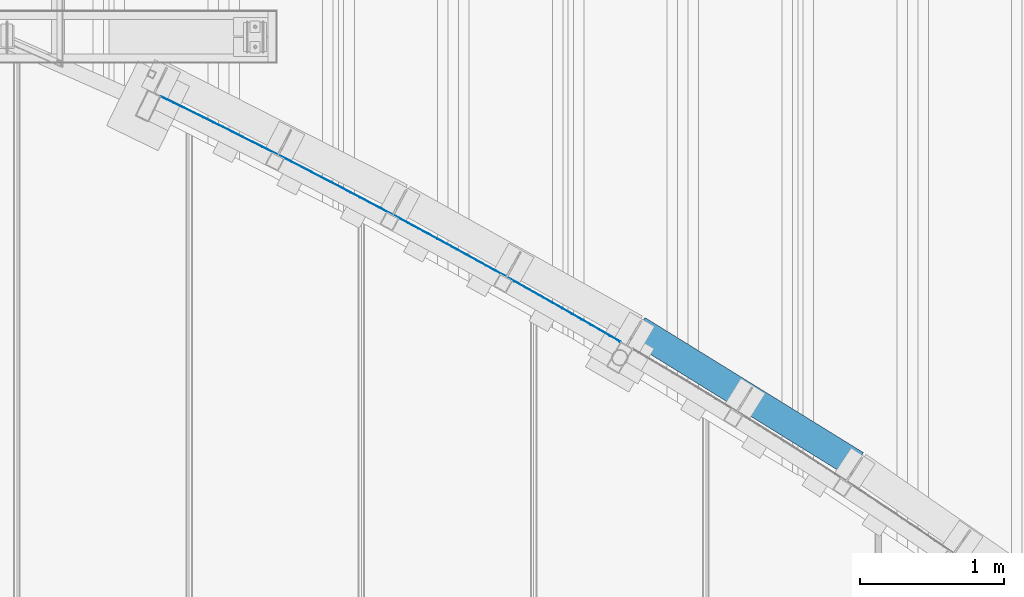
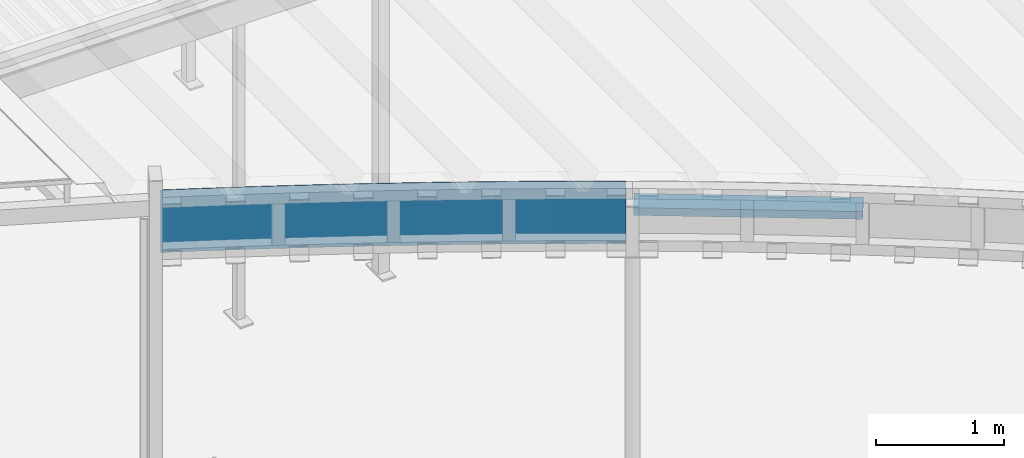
# One storey, part 17 of 98: 2 beams.
"""IFC2X3 building model written with IfcOpenShell, lengths in millimetres."""

from ifc_helpers import new_model, entity, si_unit, converted_unit, derived_unit, direction, frame, origin_with_axes, place, context, subcontext, project, spatial, faceted_brep, material, type_object, element, save


model = new_model("IFC2X3")

# Units and contexts
model_context = context("Model", 3, precision=0.01, world=frame((0.0, 4.29681676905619e-09, 0.0)), true_north=direction((4.01073788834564e-13, 1.0)))
plan_context = context("Plan", 3, precision=0.01, world=frame((0.0, 4.29681676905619e-09, 0.0)), true_north=direction((4.01073788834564e-13, 1.0)))
body_context = subcontext(model_context, "Body", "Model", "MODEL_VIEW")
ifc_project = project(units=[converted_unit("PLANEANGLEUNIT", "DEGREE", entity("IfcPositiveLengthMeasure", 0.0174532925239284), si_unit("PLANEANGLEUNIT", "RADIAN"), dimensions=[0, 0, 0, 0, 0, 0, 0]), si_unit("AREAUNIT", "SQUARE_METRE"), si_unit("LENGTHUNIT", "METRE", prefix="MILLI"), si_unit("MASSUNIT", "GRAM", prefix="KILO"), si_unit("POWERUNIT", "WATT"), si_unit("PRESSUREUNIT", "PASCAL"), si_unit("FORCEUNIT", "NEWTON", prefix="KILO"), si_unit("ELECTRICCURRENTUNIT", "AMPERE"), si_unit("THERMODYNAMICTEMPERATUREUNIT", "DEGREE_CELSIUS"), si_unit("TIMEUNIT", "SECOND"), si_unit("VOLUMEUNIT", "CUBIC_METRE"), derived_unit("LINEARVELOCITYUNIT", [(si_unit("LENGTHUNIT", "METRE"), 1), (si_unit("TIMEUNIT", "SECOND"), -1)]), derived_unit("VOLUMETRICFLOWRATEUNIT", [(si_unit("VOLUMEUNIT", "CUBIC_METRE"), 1), (si_unit("TIMEUNIT", "SECOND"), -1)]), derived_unit("THERMALTRANSMITTANCEUNIT", [(si_unit("POWERUNIT", "WATT"), 1), (si_unit("THERMODYNAMICTEMPERATUREUNIT", "KELVIN"), -1), (si_unit("AREAUNIT", "SQUARE_METRE"), -1)])], contexts=[model_context, plan_context])

# Site, building, storey
site_placement = place(None, frame((0.0, -4.29681676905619e-09, 0.0), z_axis=(0.0, 0.0, 1.0), x_axis=(1.0, 0.0, 0.0)))
site = spatial("IfcSite", under=ifc_project, at=site_placement, Name="Gardermoen", CompositionType="ELEMENT")
building_placement = place(site_placement, frame((0.0, 4.29681676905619e-09, 0.0), z_axis=(0.0, 0.0, 1.0), x_axis=(1.0, 0.0, 0.0)))
building = spatial("IfcBuilding", under=site, at=building_placement, Name="TS", CompositionType="ELEMENT")
storey_placement = place(building_placement, origin_with_axes())
storey = spatial("IfcBuildingStorey", under=building, at=storey_placement, Name="D", CompositionType="ELEMENT", Elevation=0.0)

# Beams
ifc_material_1 = material(Name="TIMBER/GL36c")
beam_type_1 = type_object("IfcBeamType", Name="PL73*198", PredefinedType="NOTDEFINED")
beam_1_placement = place(storey_placement, frame((521645.767996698, 409829.850770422, 206786.5), z_axis=(-0.525707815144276, -0.85066520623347, 0.0), x_axis=(-0.85066520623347, 0.525707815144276, 0.0)))
element("IfcBeam", 1, at=beam_1_placement, inside=storey, type_object=beam_type_1, material=ifc_material_1, Name="TREBJELKE", ObjectType="PL73*198", context=body_context, shape_type="Brep", body=[
    faceted_brep([(2.3283064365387e-10, 36.5, -99.0000000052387), (-2.3283064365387e-10, 36.5, 99.0000000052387), (1789.56238802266, 36.5, 98.99999998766), (1789.56238802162, 36.5, -99.0000000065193), (-2.3283064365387e-10, -36.5, 99.0000000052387), (1789.56238802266, -36.5, 98.99999998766), (2.3283064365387e-10, -36.5, -99.0000000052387), (1789.56238802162, -36.5, -99.0000000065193)], [[[0, 1, 2, 3]], [[1, 4, 5, 2]], [[4, 6, 7, 5]], [[6, 0, 3, 7]], [[5, 7, 3, 2]], [[6, 4, 1, 0]]]),
])
ifc_material_2 = material(Name="STEEL/S355")
beam_type_2 = type_object("IfcBeamType", Name="4*595", PredefinedType="NOTDEFINED")
beam_2_placement = place(storey_placement, frame((516756.804473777, 412417.84460096, 206802.5), z_axis=(0.471810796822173, 0.881699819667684, 0.0), x_axis=(0.881699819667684, -0.471810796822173, 0.0)))
element("IfcBeam", 2, at=beam_2_placement, inside=storey, type_object=beam_type_2, material=ifc_material_2, Name="STÅLBJELKE", ObjectType="4*595", context=body_context, shape_type="Brep", body=[
    faceted_brep([(76.5680847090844, 297.499999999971, 0.962838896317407), (76.5680847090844, -297.500000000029, 0.962838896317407), (50.1015547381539, -297.500000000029, -0.0618139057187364), (50.1015547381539, 297.499999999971, -0.0618139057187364), (76.4164969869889, 297.499999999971, 4.95996550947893), (49.9445919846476, 297.499999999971, 3.93510461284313), (76.4164969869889, -297.500000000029, 4.95996550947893), (49.9445919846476, -297.500000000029, 3.93510461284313), (153.061800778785, -297.500000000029, 3.80330701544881), (152.916526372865, -297.500000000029, 7.80066806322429), (152.916526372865, 297.499999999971, 7.80066806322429), (153.061800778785, 297.499999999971, 3.80330701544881), (229.559907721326, 297.499999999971, 6.52295616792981), (229.559907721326, -297.500000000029, 6.52295616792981), (229.420946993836, -297.500000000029, 10.5205416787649), (229.420946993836, 297.499999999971, 10.5205416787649), (305.929568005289, 297.499999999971, 13.1195795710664), (306.062214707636, 297.499999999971, 9.1217795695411), (306.062214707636, -297.500000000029, 9.1217795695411), (305.929568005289, -297.500000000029, 13.1195795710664), (382.442198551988, -297.500000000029, 15.5977752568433), (382.442198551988, 297.499999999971, 15.5977752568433), (382.568530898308, 297.499999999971, 11.5997707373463), (382.568530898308, -297.500000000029, 11.5997707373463), (459.078665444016, -297.500000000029, 13.9569234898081), (458.958647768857, -297.500000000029, 17.9551225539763), (458.958647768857, 297.499999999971, 17.9551225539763), (459.078665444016, 297.499999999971, 13.9569234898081), (535.592427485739, 297.499999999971, 16.1932319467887), (535.592427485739, -297.500000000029, 16.1932319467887), (535.478724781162, -297.500000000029, 20.1916155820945), (535.478724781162, 297.499999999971, 20.1916155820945), (612.00223870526, 297.499999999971, 22.3072487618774), (612.109626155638, 297.499999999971, 18.3086905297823), (612.109626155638, -297.500000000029, 18.3086905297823), (612.00223870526, -297.500000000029, 22.3072487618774), (688.52899864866, -297.500000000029, 24.3020168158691), (688.52899864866, 297.499999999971, 24.3020168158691), (688.630070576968, 297.499999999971, 20.3032939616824), (688.630070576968, -297.500000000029, 20.3032939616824), (765.153569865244, -297.500000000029, 22.177037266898), (765.058813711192, -297.500000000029, 26.175914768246), (765.058813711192, 297.499999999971, 26.175914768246), (765.153569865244, 297.499999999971, 22.177037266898), (841.679933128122, 297.499999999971, 23.9299157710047), (841.679933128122, -297.500000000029, 23.9299157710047), (841.591492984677, -297.500000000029, 27.9289379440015), (841.591492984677, 297.499999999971, 27.9289379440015), (918.126845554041, 297.499999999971, 29.5610819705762), (918.208969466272, 297.499999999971, 25.561925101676), (918.208969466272, -297.500000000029, 25.561925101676), (918.126845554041, -297.500000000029, 29.5610819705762), (994.664680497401, -297.500000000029, 31.0723427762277), (994.664680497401, 297.499999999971, 31.0723427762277), (994.740487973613, 297.499999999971, 27.0730611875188), (994.740487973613, -297.500000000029, 27.0730611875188), (1071.27429773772, -297.500000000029, 28.4633202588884), (1071.20480688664, -297.500000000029, 32.4627165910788), (1071.20480688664, 297.499999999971, 32.4627165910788), (1071.27429773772, 297.499999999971, 28.4633202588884), (1147.8102078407, 297.499999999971, 29.7326988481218), (1147.8102078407, -297.500000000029, 29.7326988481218), (1147.74703378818, -297.500000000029, 33.7321999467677), (1147.74703378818, 297.499999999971, 33.7321999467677), (1224.29117026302, 297.499999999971, 34.8807896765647), (1224.3480273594, 297.499999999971, 30.8811937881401), (1224.3480273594, -297.500000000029, 30.8811937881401), (1224.29117026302, -297.500000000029, 34.8807896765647), (1300.83702536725, -297.500000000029, 35.9084829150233), (1300.83702536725, 297.499999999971, 35.9084829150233), (1300.8875653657, 297.499999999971, 31.9088022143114), (1300.8875653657, -297.500000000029, 31.9088022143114), (1377.4286309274, -297.500000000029, 32.8155215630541), (1377.38440815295, -297.500000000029, 36.8152770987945), (1377.38440815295, 297.499999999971, 36.8152770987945), (1377.4286309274, 297.499999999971, 32.8155215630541), (1453.97103310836, 297.499999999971, 33.6013495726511), (1453.97103310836, -297.500000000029, 33.6013495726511), (1453.93312766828, -297.500000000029, 37.6011699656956), (1453.93312766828, 297.499999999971, 37.6011699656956), (1530.48299295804, 297.499999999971, 38.2661595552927), (1530.51458096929, 297.499999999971, 34.2662842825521), (1530.51458096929, -297.500000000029, 34.2662842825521), (1530.48299295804, -297.500000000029, 38.2661595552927), (1607.03381306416, -297.500000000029, 38.810244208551), (1607.03381306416, 297.499999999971, 38.810244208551), (1607.05908356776, 297.499999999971, 34.8103240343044), (1607.05908356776, -297.500000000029, 34.8103240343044), (1683.60434995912, -297.500000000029, 35.2334674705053), (1683.58539702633, -297.500000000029, 39.2334225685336), (1683.58539702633, 297.499999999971, 39.2334225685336), (1683.60434995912, 297.499999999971, 35.2334674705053), (1760.15018919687, 297.499999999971, 35.5357135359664), (1760.15018919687, -297.500000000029, 35.5357135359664), (1760.13755388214, -297.500000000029, 39.5356935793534), (1760.13755388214, 297.499999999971, 39.5356935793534), (1836.69009266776, 297.499999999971, 39.7170564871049), (1836.69641033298, 297.499999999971, 35.7170614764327), (1836.69641033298, -297.500000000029, 35.7170614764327), (1836.69009266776, -297.500000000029, 39.7170564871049), (1913.24282241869, -297.500000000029, 39.777510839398), (1913.24282241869, 297.499999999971, 39.777510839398), (1913.24282241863, 297.499999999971, 35.7775108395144), (1913.24282241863, -297.500000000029, 35.7775108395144), (1989.78923450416, -297.500000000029, 35.7170614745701), (1989.7955521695, -297.500000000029, 39.7170564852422), (1989.7955521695, 297.499999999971, 39.7170564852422), (1989.78923450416, 297.499999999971, 35.7170614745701), (2066.33545564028, 297.499999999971, 35.5357135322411), (2066.33545564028, -297.500000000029, 35.5357135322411), (2066.34809095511, -297.500000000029, 39.5356935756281), (2066.34809095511, 297.499999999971, 39.5356935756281), (2142.90024781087, 297.499999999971, 39.2334225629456), (2142.88129487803, 297.499999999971, 35.2334674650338), (2142.88129487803, -297.500000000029, 35.2334674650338), (2142.90024781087, -297.500000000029, 39.2334225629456), (2219.45183177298, -297.500000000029, 38.8102442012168), (2219.45183177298, 297.499999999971, 38.8102442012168), (2219.42656126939, 297.499999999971, 34.8103240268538), (2219.42656126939, -297.500000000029, 34.8103240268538), (2295.97106386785, -297.500000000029, 34.2662842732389), (2296.00265187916, -297.500000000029, 38.2661595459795), (2296.00265187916, 297.499999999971, 38.2661595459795), (2295.97106386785, 297.499999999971, 34.2662842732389), (2372.51461172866, 297.499999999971, 33.6013495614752), (2372.51461172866, -297.500000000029, 33.6013495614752), (2372.55251716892, -297.500000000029, 37.6011699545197), (2372.55251716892, 297.499999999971, 37.6011699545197), (2449.10123668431, 297.499999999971, 36.815277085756), (2449.05701390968, 297.499999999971, 32.815521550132), (2449.05701390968, -297.500000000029, 32.815521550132), (2449.10123668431, -297.500000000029, 36.815277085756), (2525.6486194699, -297.500000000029, 35.9084829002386), (2525.6486194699, 297.499999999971, 35.9084829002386), (2525.59807947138, 297.499999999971, 31.9088021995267), (2525.59807947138, -297.500000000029, 31.9088021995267), (2602.13761747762, -297.500000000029, 30.8811937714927), (2602.19447457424, -297.500000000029, 34.8807896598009), (2602.19447457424, 297.499999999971, 34.8807896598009), (2602.13761747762, 297.499999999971, 30.8811937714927), (2678.67543699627, 297.499999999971, 29.7326988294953), (2678.67543699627, -297.500000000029, 29.7326988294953), (2678.73861104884, -297.500000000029, 33.7321999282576), (2678.73861104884, 297.499999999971, 33.7321999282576), (2755.28083795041, 297.499999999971, 32.4627165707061), (2755.21134709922, 297.499999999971, 28.4633202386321), (2755.21134709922, -297.500000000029, 28.4633202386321), (2755.28083795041, -297.500000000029, 32.4627165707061), (2831.82096433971, -297.500000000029, 31.0723427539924), (2831.82096433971, 297.499999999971, 31.0723427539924), (2831.74515686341, 297.499999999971, 27.0730611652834), (2831.74515686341, -297.500000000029, 27.0730611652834), (2908.27667537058, -297.500000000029, 25.5619250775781), (2908.35879928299, -297.500000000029, 29.5610819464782), (2908.35879928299, 297.499999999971, 29.5610819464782), (2908.27667537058, 297.499999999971, 25.5619250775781), (2984.80571170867, 297.499999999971, 23.9299157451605), (2984.80571170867, -297.500000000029, 23.9299157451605), (2984.89415185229, -297.500000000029, 27.9289379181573), (2984.89415185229, 297.499999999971, 27.9289379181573), (3061.42683112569, 297.499999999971, 26.1759147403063), (3061.33207497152, 297.499999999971, 22.1770372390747), (3061.33207497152, -297.500000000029, 22.1770372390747), (3061.42683112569, -297.500000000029, 26.1759147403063), (3137.95664618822, -297.500000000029, 24.3020167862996), (3137.95664618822, 297.499999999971, 24.3020167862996), (3137.85557425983, 297.499999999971, 20.3032939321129), (3137.85557425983, -297.500000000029, 20.3032939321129), (3214.37601868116, -297.500000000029, 18.3086904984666), (3214.48340613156, -297.500000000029, 22.3072487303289), (3214.48340613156, 297.499999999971, 22.3072487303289), (3214.37601868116, 297.499999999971, 18.3086904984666), (3290.89321735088, 297.499999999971, 16.1932319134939), (3290.89321735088, -297.500000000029, 16.1932319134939), (3291.0069200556, -297.500000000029, 20.1916155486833), (3291.0069200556, 297.499999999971, 20.1916155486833), (3367.52699706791, 297.499999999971, 17.9551225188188), (3367.40697939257, 297.499999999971, 13.9569234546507), (3367.40697939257, -297.500000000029, 13.9569234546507), (3367.52699706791, -297.500000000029, 17.9551225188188), (3444.04344628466, -297.500000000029, 15.5977752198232), (3444.04344628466, 297.499999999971, 15.5977752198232), (3443.91711393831, 297.499999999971, 11.5997707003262), (3443.91711393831, -297.500000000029, 11.5997707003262), (3520.4234301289, -297.500000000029, 9.1217795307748), (3520.55607683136, -297.500000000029, 13.1195795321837), (3520.55607683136, 297.499999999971, 13.1195795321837), (3520.4234301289, 297.499999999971, 9.1217795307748), (3596.92573711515, 297.499999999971, 6.52295612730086), (3596.92573711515, -297.500000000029, 6.52295612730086), (3597.0646978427, -297.500000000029, 10.5205416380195), (3597.0646978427, 297.499999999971, 10.5205416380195), (3673.56911846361, 297.499999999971, 7.80066802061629), (3673.42384405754, 297.499999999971, 3.80330697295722), (3673.42384405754, -297.500000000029, 3.80330697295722), (3673.56911846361, -297.500000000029, 7.80066802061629), (3682.44537696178, -297.500000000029, 7.47106278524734), (3682.44537696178, 297.499999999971, 7.47106278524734), (3682.29725316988, 297.499999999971, 3.47380754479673), (3682.29725316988, -297.500000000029, 3.47380754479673)], [[[0, 1, 2, 3]], [[4, 0, 3, 5]], [[6, 4, 5, 7]], [[3, 2, 7, 5]], [[1, 6, 7, 2]], [[6, 1, 8, 9]], [[4, 6, 9, 10]], [[0, 4, 10, 11]], [[1, 0, 11, 8]], [[8, 11, 12, 13]], [[9, 8, 13, 14]], [[10, 9, 14, 15]], [[11, 10, 15, 12]], [[12, 15, 16, 17]], [[13, 12, 17, 18]], [[14, 13, 18, 19]], [[15, 14, 19, 16]], [[16, 19, 20, 21]], [[17, 16, 21, 22]], [[18, 17, 22, 23]], [[19, 18, 23, 20]], [[20, 23, 24, 25]], [[21, 20, 25, 26]], [[22, 21, 26, 27]], [[23, 22, 27, 24]], [[24, 27, 28, 29]], [[25, 24, 29, 30]], [[26, 25, 30, 31]], [[27, 26, 31, 28]], [[28, 31, 32, 33]], [[29, 28, 33, 34]], [[30, 29, 34, 35]], [[31, 30, 35, 32]], [[32, 35, 36, 37]], [[33, 32, 37, 38]], [[34, 33, 38, 39]], [[35, 34, 39, 36]], [[36, 39, 40, 41]], [[37, 36, 41, 42]], [[38, 37, 42, 43]], [[39, 38, 43, 40]], [[40, 43, 44, 45]], [[41, 40, 45, 46]], [[42, 41, 46, 47]], [[43, 42, 47, 44]], [[44, 47, 48, 49]], [[45, 44, 49, 50]], [[46, 45, 50, 51]], [[47, 46, 51, 48]], [[48, 51, 52, 53]], [[49, 48, 53, 54]], [[50, 49, 54, 55]], [[51, 50, 55, 52]], [[52, 55, 56, 57]], [[53, 52, 57, 58]], [[54, 53, 58, 59]], [[55, 54, 59, 56]], [[56, 59, 60, 61]], [[57, 56, 61, 62]], [[58, 57, 62, 63]], [[59, 58, 63, 60]], [[60, 63, 64, 65]], [[61, 60, 65, 66]], [[62, 61, 66, 67]], [[63, 62, 67, 64]], [[64, 67, 68, 69]], [[65, 64, 69, 70]], [[66, 65, 70, 71]], [[67, 66, 71, 68]], [[68, 71, 72, 73]], [[69, 68, 73, 74]], [[70, 69, 74, 75]], [[71, 70, 75, 72]], [[72, 75, 76, 77]], [[73, 72, 77, 78]], [[74, 73, 78, 79]], [[75, 74, 79, 76]], [[76, 79, 80, 81]], [[77, 76, 81, 82]], [[78, 77, 82, 83]], [[79, 78, 83, 80]], [[80, 83, 84, 85]], [[81, 80, 85, 86]], [[82, 81, 86, 87]], [[83, 82, 87, 84]], [[84, 87, 88, 89]], [[85, 84, 89, 90]], [[86, 85, 90, 91]], [[87, 86, 91, 88]], [[88, 91, 92, 93]], [[89, 88, 93, 94]], [[90, 89, 94, 95]], [[91, 90, 95, 92]], [[92, 95, 96, 97]], [[93, 92, 97, 98]], [[94, 93, 98, 99]], [[95, 94, 99, 96]], [[96, 99, 100, 101]], [[97, 96, 101, 102]], [[98, 97, 102, 103]], [[99, 98, 103, 100]], [[100, 103, 104, 105]], [[101, 100, 105, 106]], [[102, 101, 106, 107]], [[103, 102, 107, 104]], [[104, 107, 108, 109]], [[105, 104, 109, 110]], [[106, 105, 110, 111]], [[107, 106, 111, 108]], [[108, 111, 112, 113]], [[109, 108, 113, 114]], [[110, 109, 114, 115]], [[111, 110, 115, 112]], [[112, 115, 116, 117]], [[113, 112, 117, 118]], [[114, 113, 118, 119]], [[115, 114, 119, 116]], [[116, 119, 120, 121]], [[117, 116, 121, 122]], [[118, 117, 122, 123]], [[119, 118, 123, 120]], [[120, 123, 124, 125]], [[121, 120, 125, 126]], [[122, 121, 126, 127]], [[123, 122, 127, 124]], [[124, 127, 128, 129]], [[125, 124, 129, 130]], [[126, 125, 130, 131]], [[127, 126, 131, 128]], [[128, 131, 132, 133]], [[129, 128, 133, 134]], [[130, 129, 134, 135]], [[131, 130, 135, 132]], [[132, 135, 136, 137]], [[133, 132, 137, 138]], [[134, 133, 138, 139]], [[135, 134, 139, 136]], [[136, 139, 140, 141]], [[137, 136, 141, 142]], [[138, 137, 142, 143]], [[139, 138, 143, 140]], [[140, 143, 144, 145]], [[141, 140, 145, 146]], [[142, 141, 146, 147]], [[143, 142, 147, 144]], [[144, 147, 148, 149]], [[145, 144, 149, 150]], [[146, 145, 150, 151]], [[147, 146, 151, 148]], [[148, 151, 152, 153]], [[149, 148, 153, 154]], [[150, 149, 154, 155]], [[151, 150, 155, 152]], [[152, 155, 156, 157]], [[153, 152, 157, 158]], [[154, 153, 158, 159]], [[155, 154, 159, 156]], [[156, 159, 160, 161]], [[157, 156, 161, 162]], [[158, 157, 162, 163]], [[159, 158, 163, 160]], [[160, 163, 164, 165]], [[161, 160, 165, 166]], [[162, 161, 166, 167]], [[163, 162, 167, 164]], [[164, 167, 168, 169]], [[165, 164, 169, 170]], [[166, 165, 170, 171]], [[167, 166, 171, 168]], [[168, 171, 172, 173]], [[169, 168, 173, 174]], [[170, 169, 174, 175]], [[171, 170, 175, 172]], [[172, 175, 176, 177]], [[173, 172, 177, 178]], [[174, 173, 178, 179]], [[175, 174, 179, 176]], [[176, 179, 180, 181]], [[177, 176, 181, 182]], [[178, 177, 182, 183]], [[179, 178, 183, 180]], [[180, 183, 184, 185]], [[181, 180, 185, 186]], [[182, 181, 186, 187]], [[183, 182, 187, 184]], [[184, 187, 188, 189]], [[185, 184, 189, 190]], [[186, 185, 190, 191]], [[187, 186, 191, 188]], [[188, 191, 192, 193]], [[189, 188, 193, 194]], [[190, 189, 194, 195]], [[191, 190, 195, 192]], [[192, 195, 196, 197]], [[193, 192, 197, 198]], [[194, 193, 198, 199]], [[195, 194, 199, 196]], [[198, 197, 196, 199]]]),
])

save(model, "model.ifc")
